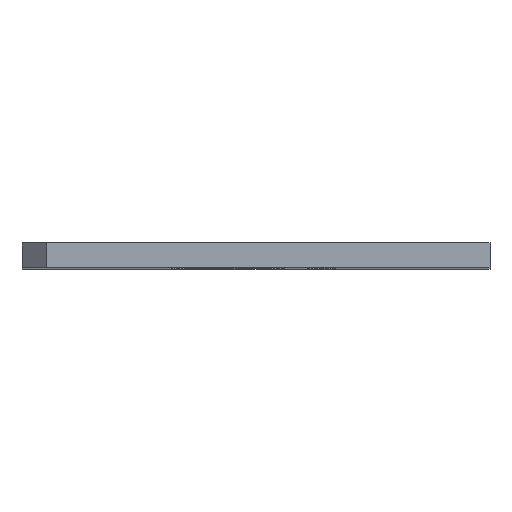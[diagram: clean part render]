
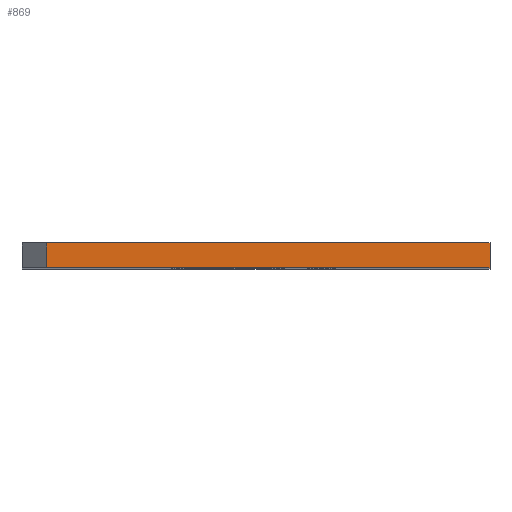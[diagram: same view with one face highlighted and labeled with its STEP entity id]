
A CAD part, top view. The second image highlights one B-rep face of the part: STEP entity #869.
In plain terms, the highlighted planar face has unit normal (0, 0, 1).
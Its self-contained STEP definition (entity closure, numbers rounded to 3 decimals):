
#20 = ORIENTED_EDGE ( 'NONE', *, *, #1027, .T. ) ;
#121 = ORIENTED_EDGE ( 'NONE', *, *, #342, .T. ) ;
#160 = VERTEX_POINT ( 'NONE', #772 ) ;
#167 = DIRECTION ( 'NONE',  ( 1., 0., 0. ) ) ;
#182 = CARTESIAN_POINT ( 'NONE',  ( 0., 3.97, 0. ) ) ;
#203 = VERTEX_POINT ( 'NONE', #819 ) ;
#243 = CARTESIAN_POINT ( 'NONE',  ( 4., 3.97, 0. ) ) ;
#255 = CARTESIAN_POINT ( 'NONE',  ( 75., 3.97, 0. ) ) ;
#341 = DIRECTION ( 'NONE',  ( 1., 0., 0. ) ) ;
#342 = EDGE_CURVE ( 'NONE', #160, #992, #860, .T. ) ;
#345 = DIRECTION ( 'NONE',  ( 0., 0., -1. ) ) ;
#364 = ORIENTED_EDGE ( 'NONE', *, *, #1009, .F. ) ;
#370 = AXIS2_PLACEMENT_3D ( 'NONE', #691, #345, #1124 ) ;
#447 = ORIENTED_EDGE ( 'NONE', *, *, #906, .F. ) ;
#452 = LINE ( 'NONE', #182, #483 ) ;
#470 = CARTESIAN_POINT ( 'NONE',  ( 75., 3.97, 0. ) ) ;
#483 = VECTOR ( 'NONE', #341, 1000. ) ;
#499 = VECTOR ( 'NONE', #1246, 1000. ) ;
#599 = CARTESIAN_POINT ( 'NONE',  ( 75., 0., 0. ) ) ;
#674 = FACE_OUTER_BOUND ( 'NONE', #1365, .T. ) ;
#681 = VERTEX_POINT ( 'NONE', #255 ) ;
#683 = VECTOR ( 'NONE', #167, 1000. ) ;
#691 = CARTESIAN_POINT ( 'NONE',  ( 0., 3.97, 0. ) ) ;
#765 = PLANE ( 'NONE',  #370 ) ;
#768 = LINE ( 'NONE', #243, #499 ) ;
#772 = CARTESIAN_POINT ( 'NONE',  ( 4., 0., 0. ) ) ;
#819 = CARTESIAN_POINT ( 'NONE',  ( 4., 3.97, 0. ) ) ;
#860 = LINE ( 'NONE', #871, #683 ) ;
#863 = VECTOR ( 'NONE', #1044, 1000. ) ;
#869 = ADVANCED_FACE ( 'NONE', ( #674 ), #765, .F. ) ;
#871 = CARTESIAN_POINT ( 'NONE',  ( 0., 0., 0. ) ) ;
#906 = EDGE_CURVE ( 'NONE', #203, #681, #452, .T. ) ;
#992 = VERTEX_POINT ( 'NONE', #599 ) ;
#1009 = EDGE_CURVE ( 'NONE', #681, #992, #1423, .T. ) ;
#1027 = EDGE_CURVE ( 'NONE', #203, #160, #768, .T. ) ;
#1044 = DIRECTION ( 'NONE',  ( 0., -1., 0. ) ) ;
#1124 = DIRECTION ( 'NONE',  ( -1., 0., 0. ) ) ;
#1246 = DIRECTION ( 'NONE',  ( 0., -1., 0. ) ) ;
#1365 = EDGE_LOOP ( 'NONE', ( #447, #20, #121, #364 ) ) ;
#1423 = LINE ( 'NONE', #470, #863 ) ;
